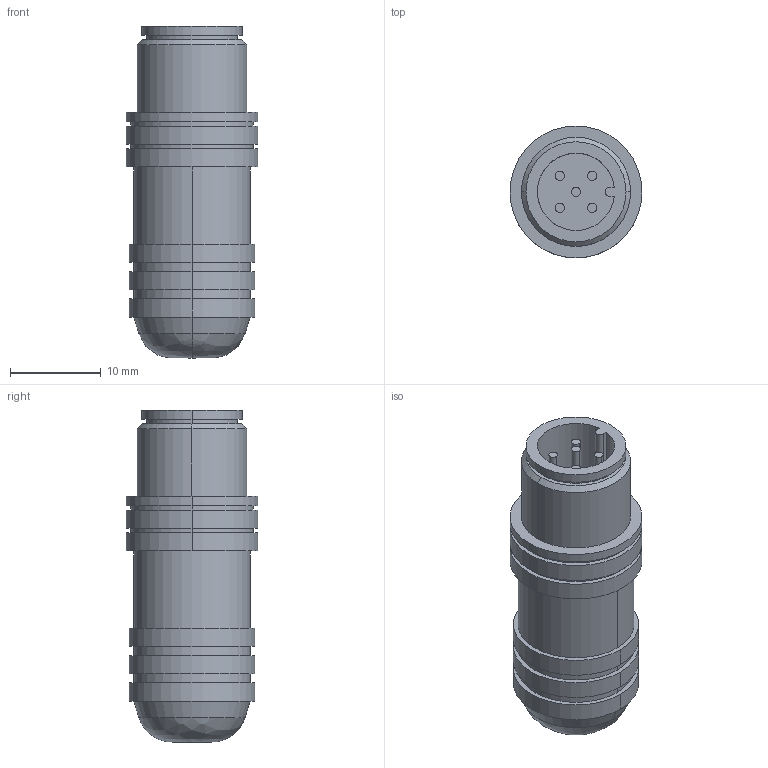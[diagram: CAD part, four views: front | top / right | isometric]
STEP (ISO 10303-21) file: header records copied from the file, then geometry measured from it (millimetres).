
FILE_DESCRIPTION((''),'2;1');
FILE_NAME('8941054264','2024-01-22T14:07:55',('THD3HC'),(''),'CREO PARAMETRIC BY PTC INC, 2020044','CREO PARAMETRIC BY PTC INC, 2020044','');
FILE_SCHEMA(('CONFIG_CONTROL_DESIGN','SHAPE_APPEARANCE_LAYERS_GROUPS'));
Length unit declared in the file: millimetre
Products named in the file (1): 8941054264
Bounding box: 14.5 x 14.5 x 36.5 mm (x, y, z)
Volume: 4204.4 mm3; surface area: 2334.5 mm2
Topology: 1 solids, 1 shells, 70 faces, 149 edges, 101 vertices
Faces by surface type: cylinder 40, plane 24, cone 4, bspline 2
Entity records: 2953 total; most frequent: DIRECTION 384, CARTESIAN_POINT 374, ORIENTED_EDGE 298, PRESENTATION_STYLE_ASSIGNMENT 186, AXIS2_PLACEMENT_3D 167, STYLED_ITEM 150, CURVE_STYLE 149, EDGE_CURVE 149
